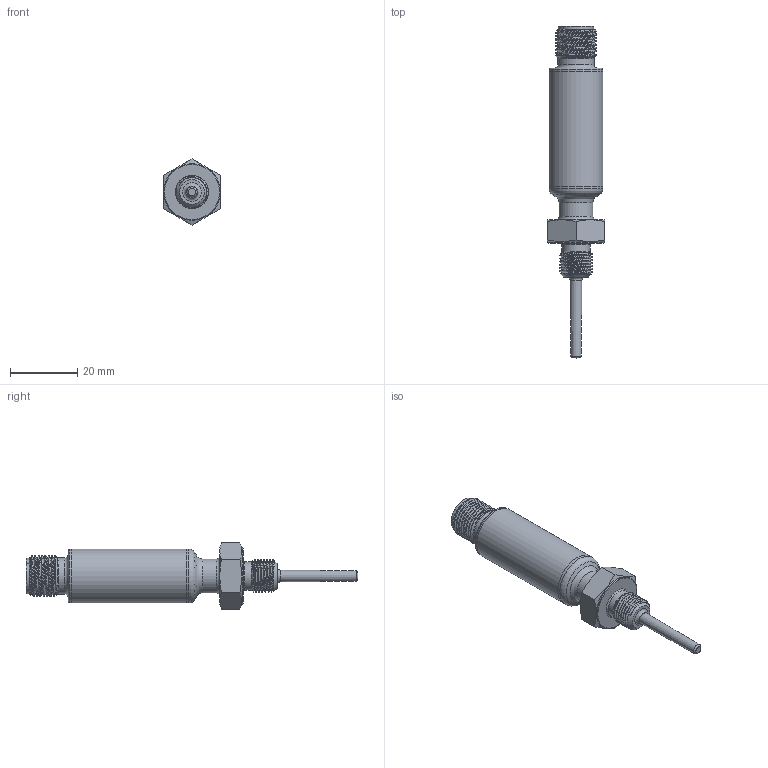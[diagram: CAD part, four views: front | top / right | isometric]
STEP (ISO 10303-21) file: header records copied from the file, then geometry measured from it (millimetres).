
FILE_DESCRIPTION((''),'2;1');
FILE_NAME('K:\Comune\Vol1\Disegni\INVENTOR\Progetti in 3D\EVOMINI+ IO-LINK TURCK\H017042\9910652.stp','2013-10-24T17:49:30',('michele.miglioli'),(''),'Autodesk Inventor 2010','Autodesk Inventor 2010','');
FILE_SCHEMA(('AUTOMOTIVE_DESIGN { 1 0 10303 214 1 1 1 1 }'));
Length unit declared in the file: millimetre
Products named in the file (8): 9910652; Basetta a 4 contatti per M12 maschio; Fondello per connettore M12; Isolatore M12 maschio completo; Isolatore maschio per M12; Contatto maschio; Tubo Ø16mm; Pozzetto termometrico per 9910652
Assembly tree (10 placements, depth 4):
  9910652
    Basetta a 4 contatti per M12 maschio
      Fondello per connettore M12
      Isolatore M12 maschio completo
        Isolatore maschio per M12
        Contatto maschio  x4
    Tubo Ø16mm
    Pozzetto termometrico per 9910652
Bounding box: 17 x 98.5 x 19.63 mm (x, y, z)
Volume: 6195.3 mm3; surface area: 8149.3 mm2
Topology: 8 solids, 8 shells, 239 faces, 586 edges, 372 vertices
Faces by surface type: plane 91, cylinder 57, bspline 46, cone 27, torus 10, sphere 8
Full cylindrical faces by diameter (mm): 1 x8, 1.3 x5, 8.5 x1, 9.7 x1, 10 x1, 10.7 x1, 14.9 x2, 15 x1, 16 x3, 16.8 x1
Entity records: 10593 total; most frequent: CARTESIAN_POINT 5757, ORIENTED_EDGE 936, DIRECTION 889, EDGE_CURVE 468, AXIS2_PLACEMENT_3D 336, VERTEX_POINT 323, EDGE_LOOP 289, VECTOR 217
